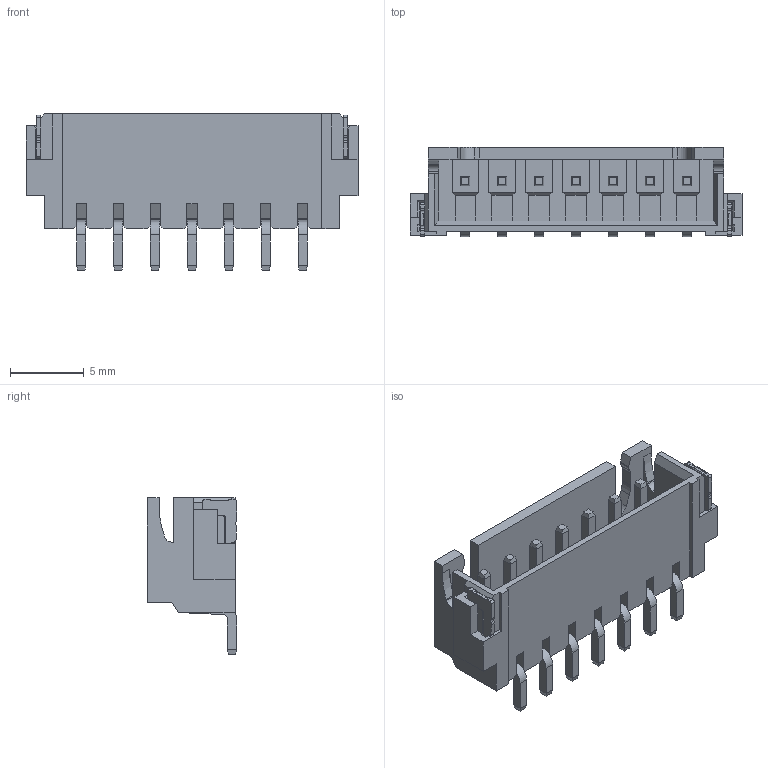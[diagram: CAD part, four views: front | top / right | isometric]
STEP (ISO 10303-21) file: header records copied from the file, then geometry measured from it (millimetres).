
FILE_DESCRIPTION(/* description */ (''),/* implementation_level */ '2;1');
FILE_NAME(/* name */ 'E:\工作文件\现出货3D文件\01温达\XH\HC-XH-NAWT-01(卧贴-HCTL)\HC-XH-7AWT-01(卧贴-HCTL).stp',/* time_stamp */ '2024-02-27T10:26:17+08:00',/* author */ ('admin'),/* organization */ (''),/* preprocessor_version */ 'ST-DEVELOPER v18.1',/* originating_system */ 'Autodesk Inventor 2021',/* authorisation */ '');
FILE_SCHEMA (('AUTOMOTIVE_DESIGN { 1 0 10303 214 3 1 1 }'));
Length unit declared in the file: millimetre
Products named in the file (1): HC-XH-3AWT-01(卧贴-HCTL)
Bounding box: 22.5 x 6.05 x 10.6 mm (x, y, z)
Volume: 436.3 mm3; surface area: 1191.9 mm2
Topology: 1 solids, 1 shells, 504 faces, 1371 edges, 874 vertices
Faces by surface type: plane 422, cylinder 82
Entity records: 15896 total; most frequent: CARTESIAN_POINT 2750, ORIENTED_EDGE 2742, DIRECTION 2553, EDGE_CURVE 1371, LINE 1199, VECTOR 1199, VERTEX_POINT 874, AXIS2_PLACEMENT_3D 677
